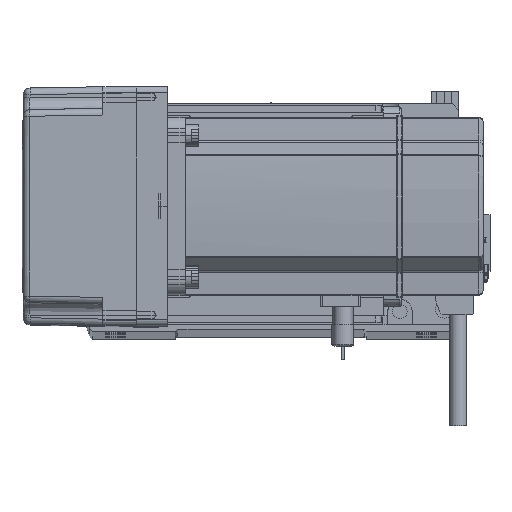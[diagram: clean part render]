
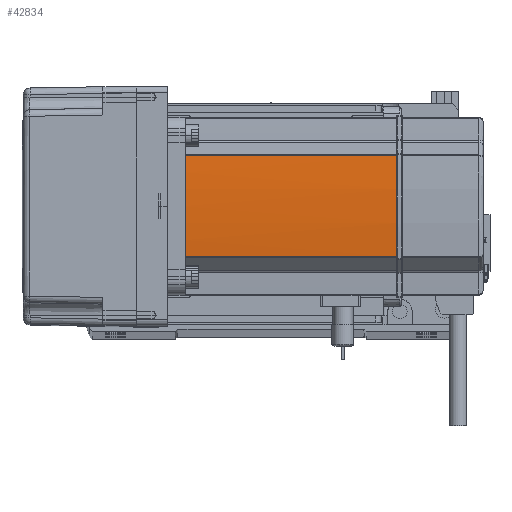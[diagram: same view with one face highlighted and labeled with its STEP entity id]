
A CAD part, top view. The second image highlights one B-rep face of the part: STEP entity #42834.
In plain terms, the highlighted cylindrical face has radius 270 mm (diameter 540 mm), a partial arc.
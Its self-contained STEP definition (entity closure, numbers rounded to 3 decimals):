
#971 = CARTESIAN_POINT ( 'NONE',  ( -230., 0., 58. ) ) ;
#1610 = AXIS2_PLACEMENT_3D ( 'NONE', #15875, #21295, #6852 ) ;
#3910 = ORIENTED_EDGE ( 'NONE', *, *, #37981, .T. ) ;
#4329 = ORIENTED_EDGE ( 'NONE', *, *, #6292, .T. ) ;
#5187 = EDGE_LOOP ( 'NONE', ( #32826, #29946, #11794, #4329, #12187, #3910 ) ) ;
#6292 = EDGE_CURVE ( 'NONE', #44533, #27534, #53727, .T. ) ;
#6852 = DIRECTION ( 'NONE',  ( -1., 0., 0. ) ) ;
#8507 = CARTESIAN_POINT ( 'NONE',  ( -230., 0., 39. ) ) ;
#9395 = CIRCLE ( 'NONE', #54318, 270. ) ;
#10252 = LINE ( 'NONE', #49079, #40944 ) ;
#10803 = DIRECTION ( 'NONE',  ( -1., 0., 0. ) ) ;
#11228 = VERTEX_POINT ( 'NONE', #14307 ) ;
#11794 = ORIENTED_EDGE ( 'NONE', *, *, #60480, .T. ) ;
#11822 = CYLINDRICAL_SURFACE ( 'NONE', #58577, 270. ) ;
#12187 = ORIENTED_EDGE ( 'NONE', *, *, #27960, .F. ) ;
#14099 = CARTESIAN_POINT ( 'NONE',  ( 39.042, 22.724, 134. ) ) ;
#14307 = CARTESIAN_POINT ( 'NONE',  ( 40., -0.127, 134. ) ) ;
#15163 = CARTESIAN_POINT ( 'NONE',  ( 39.042, -22.724, 134. ) ) ;
#15868 = VERTEX_POINT ( 'NONE', #59327 ) ;
#15875 = CARTESIAN_POINT ( 'NONE',  ( -230., 0., 134. ) ) ;
#16816 = AXIS2_PLACEMENT_3D ( 'NONE', #54562, #20770, #54356 ) ;
#18768 = DIRECTION ( 'NONE',  ( -1., 0., 0. ) ) ;
#20770 = DIRECTION ( 'NONE',  ( 0., 0., -1. ) ) ;
#21295 = DIRECTION ( 'NONE',  ( 0., 0., -1. ) ) ;
#23101 = EDGE_CURVE ( 'NONE', #55423, #15868, #47326, .T. ) ;
#27534 = VERTEX_POINT ( 'NONE', #40063 ) ;
#27960 = EDGE_CURVE ( 'NONE', #11228, #27534, #31342, .T. ) ;
#29646 = CARTESIAN_POINT ( 'NONE',  ( 40., 0.127, 134. ) ) ;
#29946 = ORIENTED_EDGE ( 'NONE', *, *, #44114, .F. ) ;
#30032 = DIRECTION ( 'NONE',  ( 0., 0., -1. ) ) ;
#30221 = DIRECTION ( 'NONE',  ( 0., 0., -1. ) ) ;
#31342 = B_SPLINE_CURVE_WITH_KNOTS ( 'NONE', 3,
 ( #43473, #58048, #53669, #29646 ),
 .UNSPECIFIED., .F., .F.,
 ( 4, 4 ),
 ( 0., 1. ),
 .UNSPECIFIED. ) ;
#32728 = CIRCLE ( 'NONE', #16816, 270. ) ;
#32826 = ORIENTED_EDGE ( 'NONE', *, *, #23101, .T. ) ;
#35517 = DIRECTION ( 'NONE',  ( 0., 0., 1. ) ) ;
#37981 = EDGE_CURVE ( 'NONE', #11228, #55423, #32728, .T. ) ;
#39121 = VECTOR ( 'NONE', #30221, 1000. ) ;
#40063 = CARTESIAN_POINT ( 'NONE',  ( 40., 0.127, 134. ) ) ;
#40944 = VECTOR ( 'NONE', #35517, 1000. ) ;
#42834 = ADVANCED_FACE ( 'NONE', ( #55146 ), #11822, .T. ) ;
#43473 = CARTESIAN_POINT ( 'NONE',  ( 40., -0.127, 134. ) ) ;
#44114 = EDGE_CURVE ( 'NONE', #45502, #15868, #9395, .T. ) ;
#44533 = VERTEX_POINT ( 'NONE', #14099 ) ;
#45502 = VERTEX_POINT ( 'NONE', #59895 ) ;
#47326 = LINE ( 'NONE', #58828, #39121 ) ;
#47370 = DIRECTION ( 'NONE',  ( 0., 0., -1. ) ) ;
#49079 = CARTESIAN_POINT ( 'NONE',  ( 39.042, 22.724, 58. ) ) ;
#53669 = CARTESIAN_POINT ( 'NONE',  ( 40., 0.042, 134. ) ) ;
#53727 = CIRCLE ( 'NONE', #1610, 270. ) ;
#54318 = AXIS2_PLACEMENT_3D ( 'NONE', #8507, #47370, #18768 ) ;
#54356 = DIRECTION ( 'NONE',  ( -1., 0., 0. ) ) ;
#54562 = CARTESIAN_POINT ( 'NONE',  ( -230., 0., 134. ) ) ;
#55146 = FACE_OUTER_BOUND ( 'NONE', #5187, .T. ) ;
#55423 = VERTEX_POINT ( 'NONE', #15163 ) ;
#58048 = CARTESIAN_POINT ( 'NONE',  ( 40., -0.042, 134. ) ) ;
#58577 = AXIS2_PLACEMENT_3D ( 'NONE', #971, #30032, #10803 ) ;
#58828 = CARTESIAN_POINT ( 'NONE',  ( 39.042, -22.724, 58. ) ) ;
#59327 = CARTESIAN_POINT ( 'NONE',  ( 39.042, -22.724, 39. ) ) ;
#59895 = CARTESIAN_POINT ( 'NONE',  ( 39.042, 22.724, 39. ) ) ;
#60480 = EDGE_CURVE ( 'NONE', #45502, #44533, #10252, .T. ) ;
